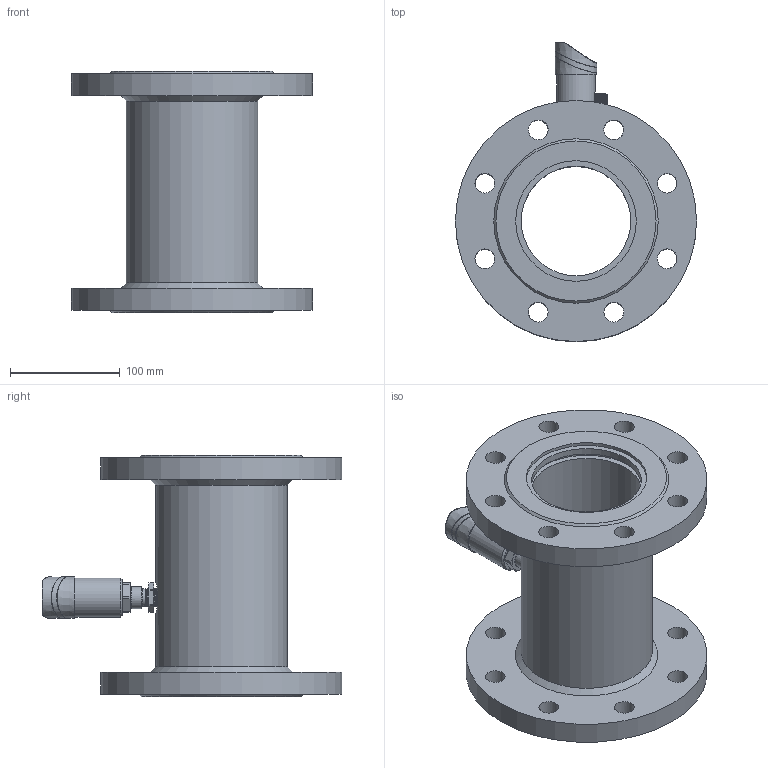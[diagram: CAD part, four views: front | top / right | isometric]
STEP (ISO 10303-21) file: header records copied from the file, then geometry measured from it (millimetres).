
FILE_DESCRIPTION( (''), '2;1');
FILE_NAME( 'QTKE_DN100_flange.step', '2024-10-14T15:08:56+08:00', (''), (''), '', '', '');
FILE_SCHEMA (('AUTOMOTIVE_DESIGN { 1 0 10303 214 3 1 1 1 }'));
Length unit declared in the file: millimetre
Products named in the file (1): QTKE DN100_flange
Bounding box: 220 x 273.5 x 220 mm (x, y, z)
Volume: 1816878 mm3; surface area: 319401.3 mm2
Topology: 5 solids, 6 shells, 734 faces, 1916 edges, 1260 vertices
Faces by surface type: plane 271, cylinder 149, extrusion 141, cone 72, bspline 58, torus 32, sphere 11
Full cylindrical faces by diameter (mm): 1.689 x1, 2.7 x3, 12 x1, 15.9 x1, 16.5 x2, 18 x16, 20 x1, 23 x3, 26 x5, 35.5 x1, 37.001 x1, 100 x3, 110 x4, 120 x1, 220 x2
Entity records: 32126 total; most frequent: CARTESIAN_POINT 13892, ORIENTED_EDGE 3564, DIRECTION 2893, EDGE_CURVE 1782, VERTEX_POINT 1206, AXIS2_PLACEMENT_3D 972, VECTOR 949, EDGE_LOOP 918
